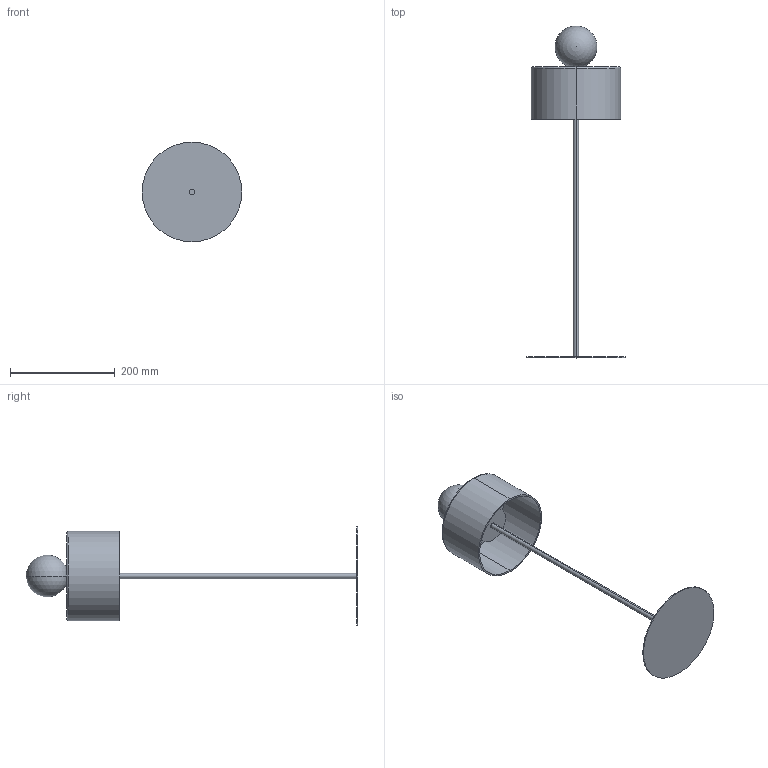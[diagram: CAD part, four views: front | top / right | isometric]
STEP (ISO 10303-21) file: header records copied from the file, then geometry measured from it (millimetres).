
FILE_DESCRIPTION (( 'STEP AP214' ), '1' );
FILE_NAME ('CURN_NAC149_L.STEP', '2026-01-30T09:41:45', ( '' ), ( '' ), 'SwSTEP 2.0', 'SolidWorks 2023', '' );
FILE_SCHEMA (( 'AUTOMOTIVE_DESIGN' ));
Length unit declared in the file: millimetre
Products named in the file (1): CURN_NAC149_L
Bounding box: 190 x 632.96 x 190 mm (x, y, z)
Volume: 774826.4 mm3; surface area: 260555.3 mm2
Topology: 5 solids, 5 shells, 23 faces, 41 edges, 27 vertices
Faces by surface type: cylinder 10, plane 9, torus 2, sphere 2
Entity records: 595 total; most frequent: DIRECTION 110, CARTESIAN_POINT 84, ORIENTED_EDGE 72, AXIS2_PLACEMENT_3D 50, EDGE_CURVE 36, CIRCLE 26, EDGE_LOOP 24, VERTEX_POINT 24
